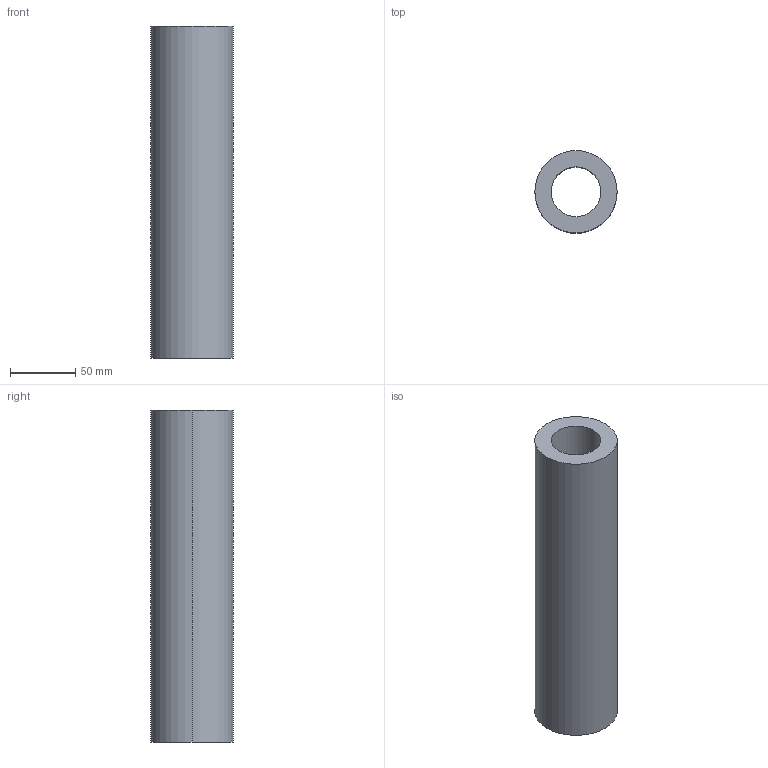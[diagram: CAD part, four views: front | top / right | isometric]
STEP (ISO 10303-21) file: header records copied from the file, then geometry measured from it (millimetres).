
FILE_DESCRIPTION (( 'STEP AP214' ), '1' );
FILE_NAME ('BRA-63X254.STEP', '2020-07-20T12:02:23', ( 'August' ), ( '' ), 'SwSTEP 2.0', 'SolidWorks 2018', '' );
FILE_SCHEMA (( 'AUTOMOTIVE_DESIGN' ));
Length unit declared in the file: millimetre
Products named in the file (1): BRA-63X254
Bounding box: 63 x 63 x 254 mm (x, y, z)
Volume: 503715.1 mm3; surface area: 84560.7 mm2
Topology: 1 solids, 1 shells, 6 faces, 12 edges, 8 vertices
Faces by surface type: cylinder 4, plane 2
Entity records: 202 total; most frequent: DIRECTION 34, CARTESIAN_POINT 27, ORIENTED_EDGE 24, AXIS2_PLACEMENT_3D 15, EDGE_CURVE 12, EDGE_LOOP 8, CIRCLE 8, VERTEX_POINT 8
